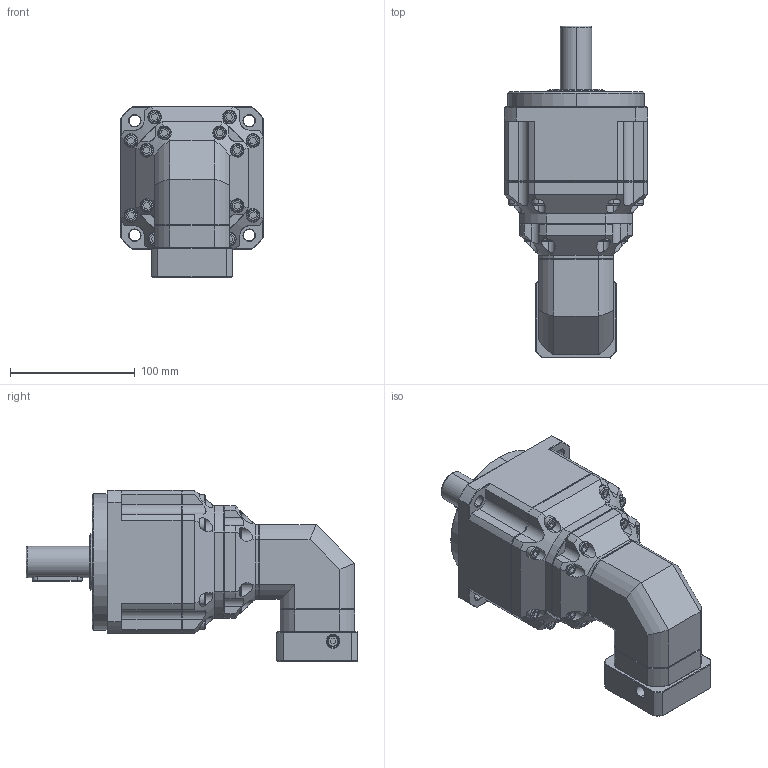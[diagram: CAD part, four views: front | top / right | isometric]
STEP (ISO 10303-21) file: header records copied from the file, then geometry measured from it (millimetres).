
FILE_DESCRIPTION (( 'STEP AP214' ), '1' );
FILE_NAME ('ZPBR115-D25-L3-P1-14-60-75-M5.step', '2024-06-29T08:02:20', ( 'Windows 蚚誧' ), ( 'Organization' ), 'SwSTEP 2.0', 'SolidWorks 2016', '' );
FILE_SCHEMA (( 'AUTOMOTIVE_DESIGN' ));
Length unit declared in the file: millimetre
Products named in the file (1): ZPBR115-D25-L3-P1-14-60-75-M5
Bounding box: 115 x 266.5 x 137.5 mm (x, y, z)
Surface area: 131880.3 mm2 (no closed solid volume)
Topology: 0 solids, 3 shells, 1976 faces, 5277 edges, 3416 vertices
Faces by surface type: plane 1137, bspline 413, cylinder 238, cone 188
Full cylindrical faces by diameter (mm): 10.2 x1
Entity records: 106833 total; most frequent: CARTESIAN_POINT 52112, ORIENTED_EDGE 10532, DIRECTION 7901, EDGE_CURVE 5275, VECTOR 3439, LINE 3439, VERTEX_POINT 3415, AXIS2_PLACEMENT_3D 2231
